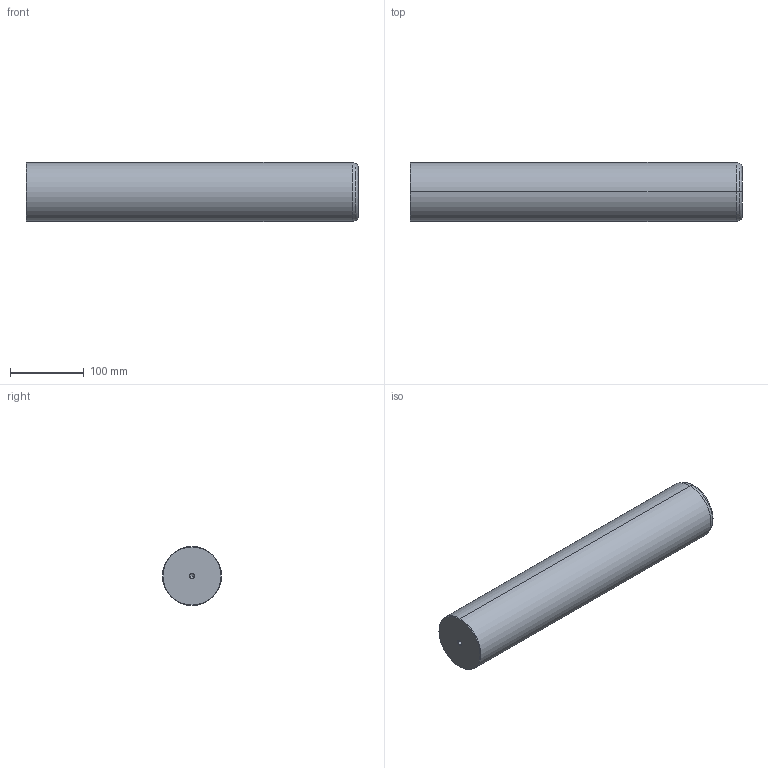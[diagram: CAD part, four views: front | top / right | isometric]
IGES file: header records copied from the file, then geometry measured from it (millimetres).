
Start section: START RECORD GO HERE.
Global section: file name: 720-80x450.igs; native system: DASSAULT SYSTEMES CATIA V5 R20 - www.3ds.com; preprocessor: CATIA Version 5 Release 20 ; author: Utente; organization: NB04-ASUS; date: 20201230.222100; units: millimetre
Bounding box: 450 x 80 x 80 mm (x, y, z)
Surface area: 123256.3 mm2 (no closed solid volume)
Topology: 0 solids, 0 shells, 22 faces, 120 edges, 116 vertices
Faces by surface type: revolution 20, plane 2
